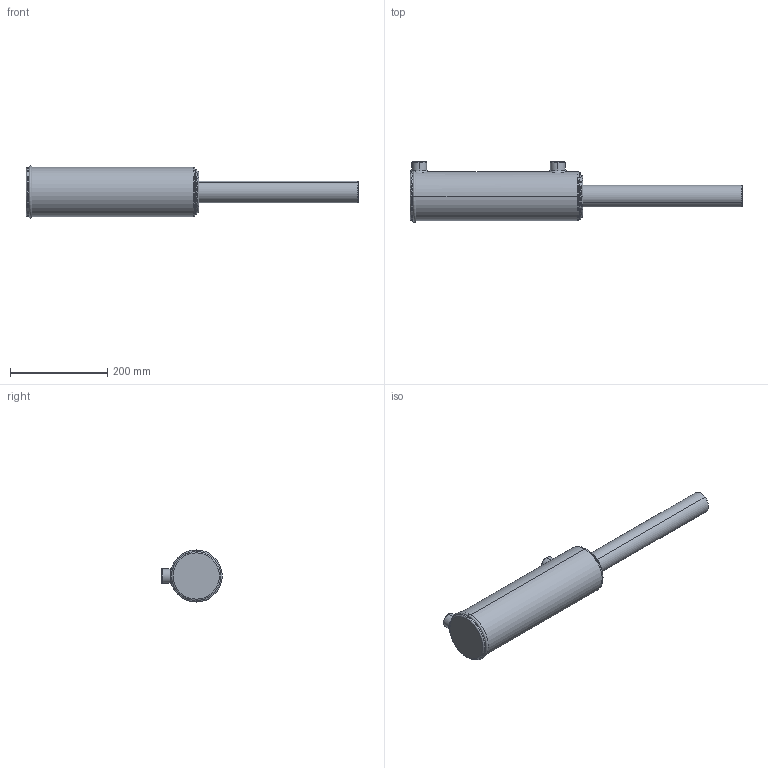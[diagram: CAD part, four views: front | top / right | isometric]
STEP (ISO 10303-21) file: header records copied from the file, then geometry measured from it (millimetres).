
FILE_DESCRIPTION (( 'STEP AP203' ), '1' );
FILE_NAME ('BL350175x245 (10) extended.STEP', '2014-11-24T02:23:55', ( '' ), ( '' ), 'SwSTEP 2.0', 'SolidWorks 2014', '' );
FILE_SCHEMA (( 'CONFIG_CONTROL_DESIGN' ));
Length unit declared in the file: millimetre
Products named in the file (3): BL body 3.5_3.5x10; Spare_3.5x10; BL350175x245 (10) extended
Assembly tree (2 placements, depth 2):
  BL350175x245 (10) extended
    BL body 3.5_3.5x10
    Spare_3.5x10
Bounding box: 683 x 124.4 x 107.2 mm (x, y, z)
Volume: 3016997.9 mm3; surface area: 224421.4 mm2
Topology: 2 solids, 2 shells, 88 faces, 205 edges, 126 vertices
Faces by surface type: cylinder 32, plane 20, torus 17, bspline 11, cone 8
Entity records: 6022 total; most frequent: CARTESIAN_POINT 3775, DIRECTION 420, ORIENTED_EDGE 402, EDGE_CURVE 201, AXIS2_PLACEMENT_3D 181, VERTEX_POINT 126, EDGE_LOOP 101, CIRCLE 99
